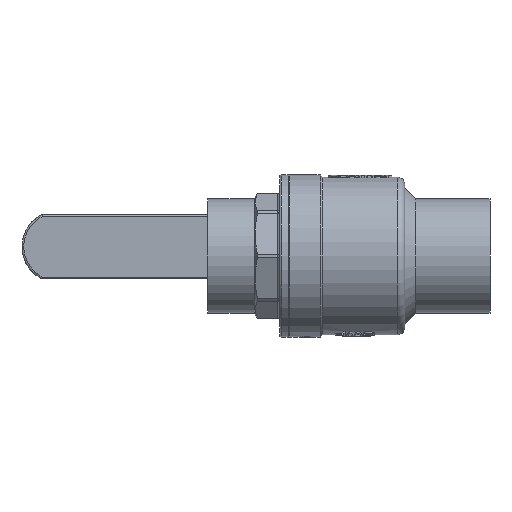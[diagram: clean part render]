
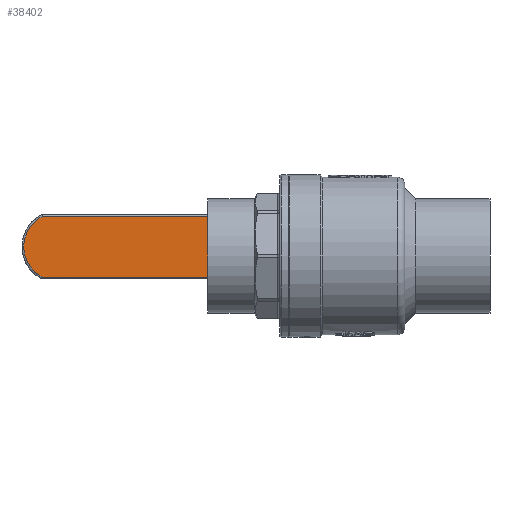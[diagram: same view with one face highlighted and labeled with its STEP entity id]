
A CAD part, front view. The second image highlights one B-rep face of the part: STEP entity #38402.
In plain terms, the highlighted planar face has unit normal (0, -1, 0).
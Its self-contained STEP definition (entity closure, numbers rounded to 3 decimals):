
#4352 = EDGE_CURVE ( 'NONE', #180661, #130366, #106919, .T. ) ;
#13943 = CARTESIAN_POINT ( 'NONE',  ( -123.134, -5., -17.45 ) ) ;
#30436 = DIRECTION ( 'NONE',  ( 1., 0., 0. ) ) ;
#32646 = DIRECTION ( 'NONE',  ( 0., 1., 0. ) ) ;
#38402 = ADVANCED_FACE ( 'NONE', ( #156289 ), #119044, .F. ) ;
#52503 = CIRCLE ( 'NONE', #84920, 18.5 ) ;
#53495 = CARTESIAN_POINT ( 'NONE',  ( -18.5, -5., 0. ) ) ;
#60927 = ORIENTED_EDGE ( 'NONE', *, *, #185869, .T. ) ;
#66738 = ORIENTED_EDGE ( 'NONE', *, *, #115896, .T. ) ;
#67999 = DIRECTION ( 'NONE',  ( 0., 0., 1. ) ) ;
#68877 = CARTESIAN_POINT ( 'NONE',  ( -123.567, -5., 16.45 ) ) ;
#75327 = CARTESIAN_POINT ( 'NONE',  ( -10.036, -5., 16.45 ) ) ;
#75547 = CARTESIAN_POINT ( 'NONE',  ( -124., -5., 16.45 ) ) ;
#81606 = EDGE_CURVE ( 'NONE', #87790, #112592, #107140, .T. ) ;
#83377 = DIRECTION ( 'NONE',  ( -1., 0., 0. ) ) ;
#84920 = AXIS2_PLACEMENT_3D ( 'NONE', #53495, #154227, #67999 ) ;
#87790 = VERTEX_POINT ( 'NONE', #75327 ) ;
#91069 = CARTESIAN_POINT ( 'NONE',  ( -123.134, -5., -16.45 ) ) ;
#97979 = LINE ( 'NONE', #13943, #131742 ) ;
#100382 = DIRECTION ( 'NONE',  ( 0., 0., -1. ) ) ;
#102364 = CARTESIAN_POINT ( 'NONE',  ( -124., -5., -16.45 ) ) ;
#106919 = LINE ( 'NONE', #102364, #178921 ) ;
#107140 = LINE ( 'NONE', #68877, #140955 ) ;
#112592 = VERTEX_POINT ( 'NONE', #168758 ) ;
#115896 = EDGE_CURVE ( 'NONE', #112592, #180661, #97979, .T. ) ;
#115938 = ORIENTED_EDGE ( 'NONE', *, *, #4352, .T. ) ;
#118479 = EDGE_LOOP ( 'NONE', ( #66738, #115938, #60927, #173692 ) ) ;
#119044 = PLANE ( 'NONE',  #159184 ) ;
#130366 = VERTEX_POINT ( 'NONE', #178470 ) ;
#131742 = VECTOR ( 'NONE', #100382, 1000. ) ;
#133502 = DIRECTION ( 'NONE',  ( 0., 0., 1. ) ) ;
#140955 = VECTOR ( 'NONE', #83377, 1000. ) ;
#154227 = DIRECTION ( 'NONE',  ( 0., -1., 0. ) ) ;
#156289 = FACE_OUTER_BOUND ( 'NONE', #118479, .T. ) ;
#159184 = AXIS2_PLACEMENT_3D ( 'NONE', #75547, #32646, #133502 ) ;
#168758 = CARTESIAN_POINT ( 'NONE',  ( -123.134, -5., 16.45 ) ) ;
#173692 = ORIENTED_EDGE ( 'NONE', *, *, #81606, .T. ) ;
#178470 = CARTESIAN_POINT ( 'NONE',  ( -10.036, -5., -16.45 ) ) ;
#178921 = VECTOR ( 'NONE', #30436, 1000. ) ;
#180661 = VERTEX_POINT ( 'NONE', #91069 ) ;
#185869 = EDGE_CURVE ( 'NONE', #130366, #87790, #52503, .T. ) ;
